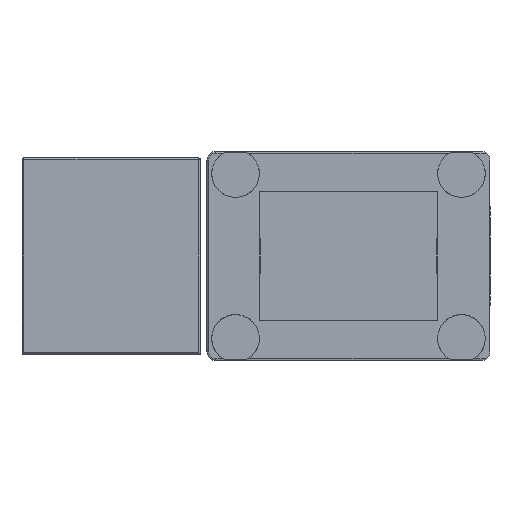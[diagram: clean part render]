
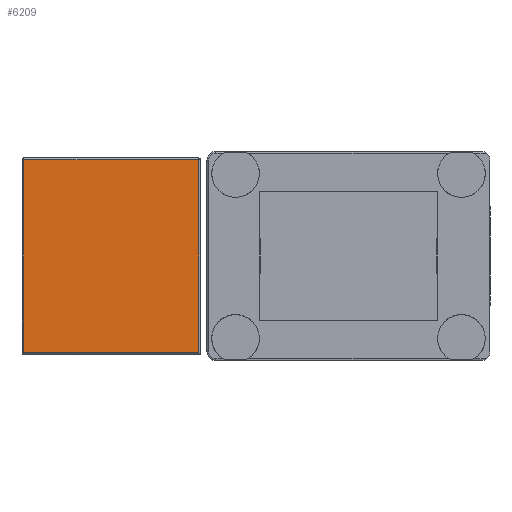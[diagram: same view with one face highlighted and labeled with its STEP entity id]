
A CAD part, left-side view. The second image highlights one B-rep face of the part: STEP entity #6209.
In plain terms, the highlighted planar face has unit normal (-1, 0, 0).
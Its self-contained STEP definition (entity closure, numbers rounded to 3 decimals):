
#179 = CARTESIAN_POINT ( 'NONE',  ( -38., 49.75, -10. ) ) ;
#279 = FACE_OUTER_BOUND ( 'NONE', #7106, .T. ) ;
#528 = CARTESIAN_POINT ( 'NONE',  ( -38., 31.95, -10. ) ) ;
#632 = CARTESIAN_POINT ( 'NONE',  ( -38., 51.75, 10.8 ) ) ;
#699 = VERTEX_POINT ( 'NONE', #5849 ) ;
#1105 = LINE ( 'NONE', #7041, #4005 ) ;
#1205 = CARTESIAN_POINT ( 'NONE',  ( -38., 51.55, -10. ) ) ;
#1358 = ORIENTED_EDGE ( 'NONE', *, *, #2599, .T. ) ;
#2084 = VECTOR ( 'NONE', #4792, 1000. ) ;
#2375 = VECTOR ( 'NONE', #2859, 1000. ) ;
#2458 = DIRECTION ( 'NONE',  ( 0., 0., 1. ) ) ;
#2599 = EDGE_CURVE ( 'NONE', #8083, #6057, #1105, .T. ) ;
#2687 = AXIS2_PLACEMENT_3D ( 'NONE', #179, #8764, #2458 ) ;
#2859 = DIRECTION ( 'NONE',  ( 0., 1., 0. ) ) ;
#3169 = VERTEX_POINT ( 'NONE', #8654 ) ;
#3375 = LINE ( 'NONE', #632, #2375 ) ;
#3547 = LINE ( 'NONE', #528, #2084 ) ;
#4005 = VECTOR ( 'NONE', #8491, 1000. ) ;
#4792 = DIRECTION ( 'NONE',  ( 0., 0., 1. ) ) ;
#5019 = EDGE_CURVE ( 'NONE', #3169, #8083, #8124, .T. ) ;
#5212 = PLANE ( 'NONE',  #2687 ) ;
#5304 = ORIENTED_EDGE ( 'NONE', *, *, #5019, .T. ) ;
#5752 = ORIENTED_EDGE ( 'NONE', *, *, #6472, .T. ) ;
#5849 = CARTESIAN_POINT ( 'NONE',  ( -38., 31.95, 10.8 ) ) ;
#6057 = VERTEX_POINT ( 'NONE', #9172 ) ;
#6209 = ADVANCED_FACE ( 'NONE', ( #279 ), #5212, .T. ) ;
#6277 = DIRECTION ( 'NONE',  ( 0., 0., -1. ) ) ;
#6357 = EDGE_CURVE ( 'NONE', #6057, #699, #3547, .T. ) ;
#6411 = ORIENTED_EDGE ( 'NONE', *, *, #6357, .T. ) ;
#6472 = EDGE_CURVE ( 'NONE', #699, #3169, #3375, .T. ) ;
#7041 = CARTESIAN_POINT ( 'NONE',  ( -38., 31.75, -10.8 ) ) ;
#7106 = EDGE_LOOP ( 'NONE', ( #5304, #1358, #6411, #5752 ) ) ;
#7317 = CARTESIAN_POINT ( 'NONE',  ( -38., 51.55, -10.8 ) ) ;
#8083 = VERTEX_POINT ( 'NONE', #7317 ) ;
#8124 = LINE ( 'NONE', #1205, #9135 ) ;
#8491 = DIRECTION ( 'NONE',  ( 0., -1., 0. ) ) ;
#8654 = CARTESIAN_POINT ( 'NONE',  ( -38., 51.55, 10.8 ) ) ;
#8764 = DIRECTION ( 'NONE',  ( -1., 0., 0. ) ) ;
#9135 = VECTOR ( 'NONE', #6277, 1000. ) ;
#9172 = CARTESIAN_POINT ( 'NONE',  ( -38., 31.95, -10.8 ) ) ;
